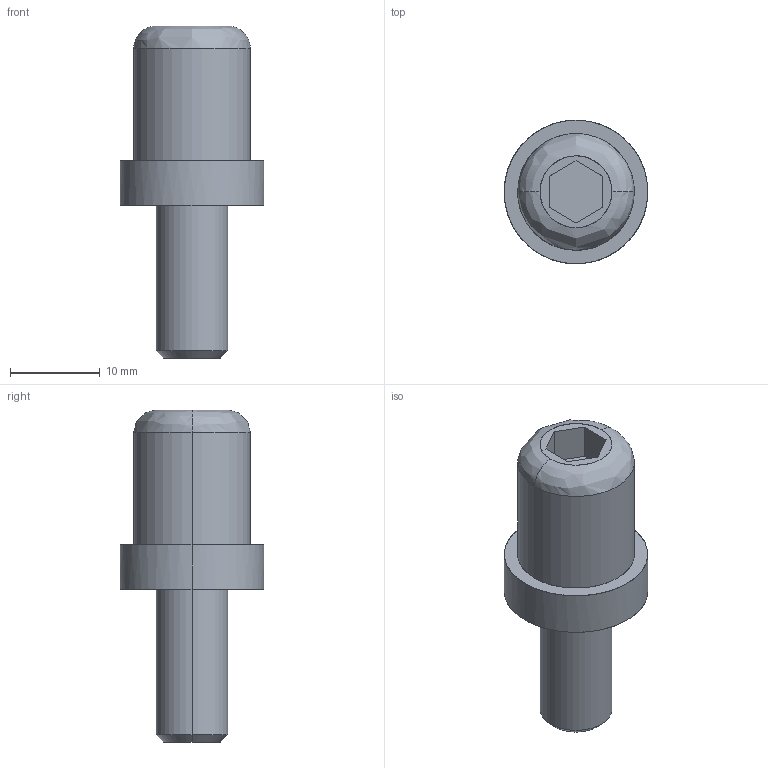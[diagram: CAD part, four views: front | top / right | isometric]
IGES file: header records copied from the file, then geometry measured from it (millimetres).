
Global section: file name: E:\UnigraphicsGraphicData\MISUMI_PRESS-PARTS\IGES\3d_sga16-20_00787_r00.igs; native system: NX V5.0; preprocessor: UGS NX IGES V5.0; author: MISUMI; date: 20110105.162529; units: millimetre
Bounding box: 16 x 16 x 37 mm (x, y, z)
Surface area: 1718.2 mm2 (no closed solid volume)
Topology: 0 solids, 0 shells, 21 faces, 124 edges, 124 vertices
Faces by surface type: bspline 21
